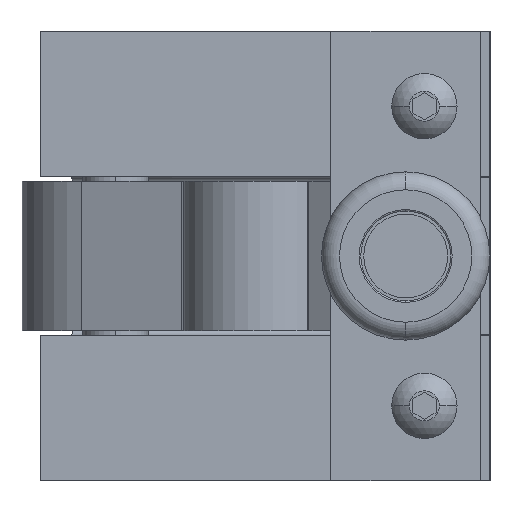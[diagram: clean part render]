
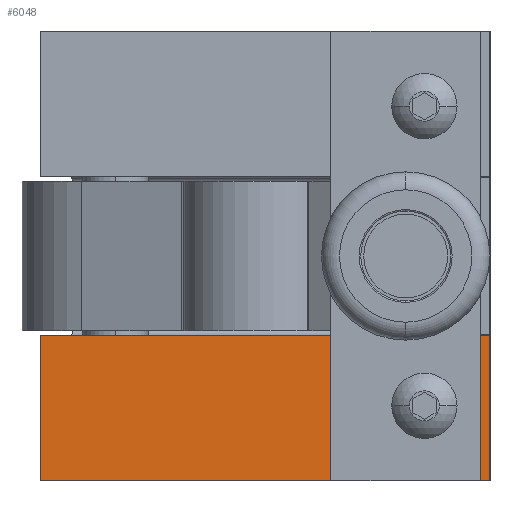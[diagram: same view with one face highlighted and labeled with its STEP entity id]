
A CAD part, left-side view. The second image highlights one B-rep face of the part: STEP entity #6048.
In plain terms, the highlighted planar face has unit normal (-1, 0, 0).
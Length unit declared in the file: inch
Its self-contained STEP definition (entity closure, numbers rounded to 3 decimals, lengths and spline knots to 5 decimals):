
#5050 = VERTEX_POINT ( 'NONE', #15325 ) ;
#5161 = EDGE_CURVE ( 'NONE', #5050, #5162, #15654, .T. ) ;
#5162 = VERTEX_POINT ( 'NONE', #15680 ) ;
#6043 = ORIENTED_EDGE ( 'NONE', *, *, #6044, .F. ) ;
#6044 = EDGE_CURVE ( 'NONE', #5162, #5050, #16405, .T. ) ;
#6048 = ADVANCED_FACE ( 'NONE', ( #16519, #16518 ), #16517, .T. ) ;
#6129 = EDGE_CURVE ( 'NONE', #6222, #6263, #16650, .T. ) ;
#6130 = ORIENTED_EDGE ( 'NONE', *, *, #6131, .F. ) ;
#6131 = EDGE_CURVE ( 'NONE', #6201, #6222, #16615, .T. ) ;
#6201 = VERTEX_POINT ( 'NONE', #16850 ) ;
#6202 = ORIENTED_EDGE ( 'NONE', *, *, #6203, .T. ) ;
#6203 = EDGE_CURVE ( 'NONE', #6201, #6266, #16849, .T. ) ;
#6212 = ORIENTED_EDGE ( 'NONE', *, *, #6265, .T. ) ;
#6219 = ORIENTED_EDGE ( 'NONE', *, *, #5161, .F. ) ;
#6220 = EDGE_LOOP ( 'NONE', ( #6221, #6130, #6202, #6212 ) ) ;
#6221 = ORIENTED_EDGE ( 'NONE', *, *, #6129, .F. ) ;
#6222 = VERTEX_POINT ( 'NONE', #16701 ) ;
#6233 = EDGE_LOOP ( 'NONE', ( #6043, #6219 ) ) ;
#6263 = VERTEX_POINT ( 'NONE', #16738 ) ;
#6265 = EDGE_CURVE ( 'NONE', #6266, #6263, #16737, .T. ) ;
#6266 = VERTEX_POINT ( 'NONE', #16733 ) ;
#15325 = CARTESIAN_POINT ( 'NONE',  ( 5.66064, 3.20971, -2.625 ) ) ;
#15654 = CIRCLE ( 'NONE', #15662, 0.125 ) ;
#15658 = CARTESIAN_POINT ( 'NONE',  ( 5.66064, 3.20971, -2.5 ) ) ;
#15660 = DIRECTION ( 'NONE',  ( 0., 0., 1. ) ) ;
#15661 = DIRECTION ( 'NONE',  ( -1., 0., 0. ) ) ;
#15662 = AXIS2_PLACEMENT_3D ( 'NONE', #15658, #15661, #15660 ) ;
#15680 = CARTESIAN_POINT ( 'NONE',  ( 5.66064, 3.20971, -2.375 ) ) ;
#16401 = DIRECTION ( 'NONE',  ( 0., 0., 1. ) ) ;
#16402 = DIRECTION ( 'NONE',  ( -1., 0., 0. ) ) ;
#16403 = CARTESIAN_POINT ( 'NONE',  ( 5.66064, 3.20971, -2.5 ) ) ;
#16404 = AXIS2_PLACEMENT_3D ( 'NONE', #16403, #16402, #16401 ) ;
#16405 = CIRCLE ( 'NONE', #16404, 0.125 ) ;
#16512 = DIRECTION ( 'NONE',  ( 0., 0., 1. ) ) ;
#16513 = DIRECTION ( 'NONE',  ( -1., 0., 0. ) ) ;
#16514 = CARTESIAN_POINT ( 'NONE',  ( 5.66064, 2.77171, -3. ) ) ;
#16516 = AXIS2_PLACEMENT_3D ( 'NONE', #16514, #16513, #16512 ) ;
#16517 = PLANE ( 'NONE',  #16516 ) ;
#16518 = FACE_OUTER_BOUND ( 'NONE', #6220, .T. ) ;
#16519 = FACE_BOUND ( 'NONE', #6233, .T. ) ;
#16612 = DIRECTION ( 'NONE',  ( 0., 0., 1. ) ) ;
#16613 = VECTOR ( 'NONE', #16612, 39.37008 ) ;
#16614 = CARTESIAN_POINT ( 'NONE',  ( 5.66064, 5.77171, -3. ) ) ;
#16615 = LINE ( 'NONE', #16614, #16613 ) ;
#16616 = DIRECTION ( 'NONE',  ( 0., -1., 0. ) ) ;
#16617 = VECTOR ( 'NONE', #16616, 39.37008 ) ;
#16618 = CARTESIAN_POINT ( 'NONE',  ( 5.66064, 2.77171, -2.03 ) ) ;
#16650 = LINE ( 'NONE', #16618, #16617 ) ;
#16701 = CARTESIAN_POINT ( 'NONE',  ( 5.66064, 5.77171, -2.03 ) ) ;
#16733 = CARTESIAN_POINT ( 'NONE',  ( 5.66064, 2.77171, -3. ) ) ;
#16734 = DIRECTION ( 'NONE',  ( 0., 0., 1. ) ) ;
#16735 = VECTOR ( 'NONE', #16734, 39.37008 ) ;
#16736 = CARTESIAN_POINT ( 'NONE',  ( 5.66064, 2.77171, -3. ) ) ;
#16737 = LINE ( 'NONE', #16736, #16735 ) ;
#16738 = CARTESIAN_POINT ( 'NONE',  ( 5.66064, 2.77171, -2.03 ) ) ;
#16755 = DIRECTION ( 'NONE',  ( 0., -1., 0. ) ) ;
#16756 = VECTOR ( 'NONE', #16755, 39.37008 ) ;
#16757 = CARTESIAN_POINT ( 'NONE',  ( 5.66064, 2.77171, -3. ) ) ;
#16849 = LINE ( 'NONE', #16757, #16756 ) ;
#16850 = CARTESIAN_POINT ( 'NONE',  ( 5.66064, 5.77171, -3. ) ) ;
